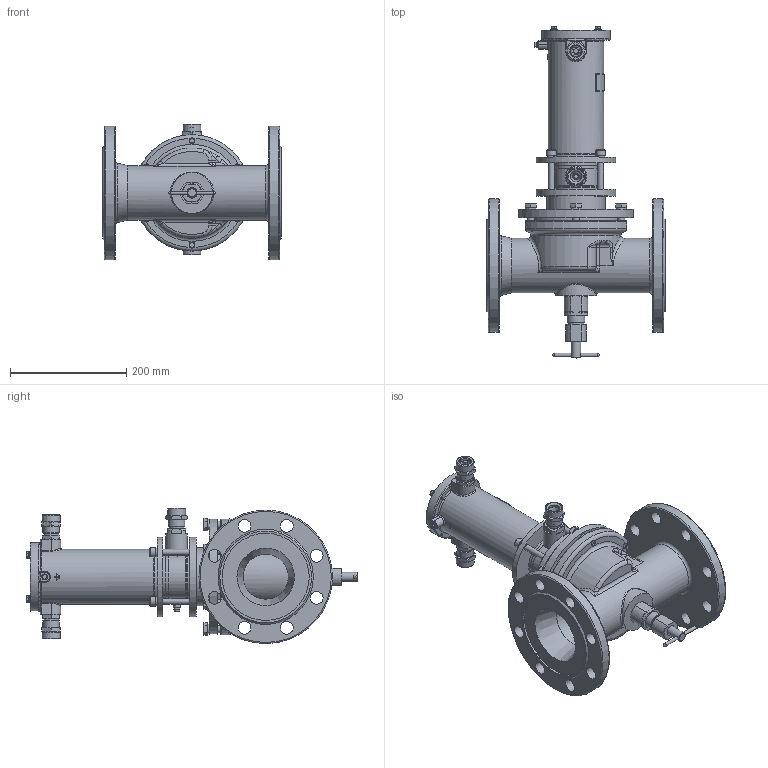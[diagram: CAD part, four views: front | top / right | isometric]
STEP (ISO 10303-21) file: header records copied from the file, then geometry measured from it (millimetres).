
FILE_DESCRIPTION(('STEP AP203'), '1');
FILE_NAME('ÑÅÍÑ DN100PN25-Â-ÄÏ1.stp', '2018-09-19T08:49:39', ('Îðëîâ Å.Â.'), ('ÎÎÎ ÍÏÏ Ñåíñîð'), 'ASCON STEP Converter 1.3', 'Kompas 3D', '');
FILE_SCHEMA(('CONFIG_CONTROL_DESIGN','SUPPORT_RESOURCE_SCHEMA'));
Length unit declared in the file: millimetre
Products named in the file (1): 67
Bounding box: 308 x 571.86 x 233 mm (x, y, z)
Volume: 3968543.4 mm3; surface area: 899916.9 mm2
Topology: 3 solids, 25 shells, 2309 faces, 6023 edges, 3886 vertices
Faces by surface type: cylinder 1112, plane 883, cone 182, bspline 56, torus 52, extrusion 16, sphere 8
Full cylindrical faces by diameter (mm): 2.459 x1, 3.5 x2, 4.134 x6, 4.917 x4, 5 x2, 5.3 x1, 6 x9, 6.5 x4, 8 x10, 8.2 x1, 8.376 x4, 8.5 x1, 10 x6, 10.106 x6, 11 x5, 12 x12, 13 x10, 16 x6, 16.004 x2, 17 x2, 17.5 x1, 18 x1, 18.632 x2, 20 x4, 22 x18, 22.376 x2, 23 x2, 23.5 x3, 24 x3, 24.5 x2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
Entity records: 91547 total; most frequent: CARTESIAN_POINT 33813, DIRECTION 12422, ORIENTED_EDGE 11982, EDGE_CURVE 5991, AXIS2_PLACEMENT_3D 4814, VERTEX_POINT 3886, VECTOR 2794, LINE 2778
